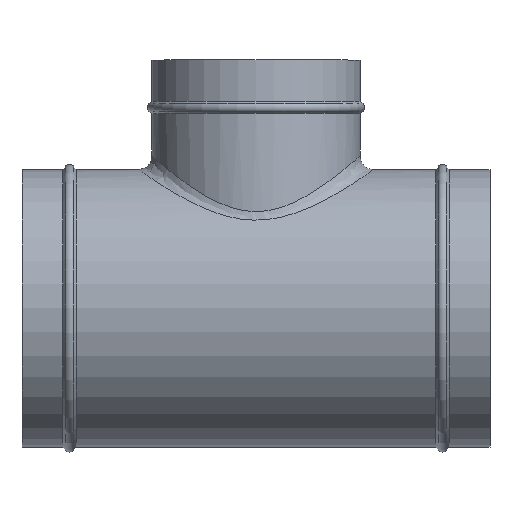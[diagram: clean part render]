
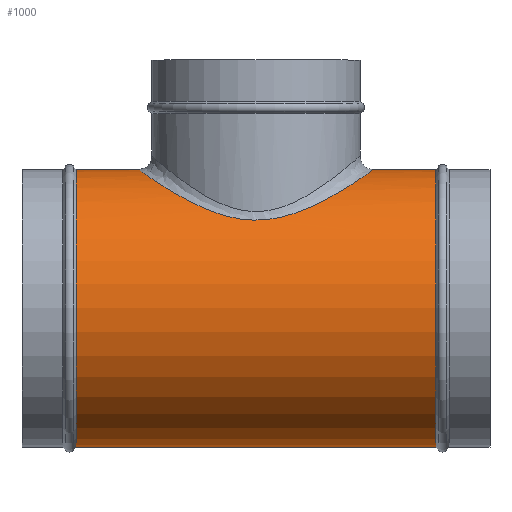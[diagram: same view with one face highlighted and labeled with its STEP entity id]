
A CAD part, top view. The second image highlights one B-rep face of the part: STEP entity #1000.
In plain terms, the highlighted cylindrical face has radius 102.25 mm (diameter 204.5 mm), a partial arc.
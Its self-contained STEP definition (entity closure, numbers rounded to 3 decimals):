
#226=CARTESIAN_POINT('',(-86.75,102.25,
0.));
#227=CARTESIAN_POINT('',(-86.75,102.25,3.342));
#228=CARTESIAN_POINT('',(-86.284,101.921,10.14));
#229=CARTESIAN_POINT('',(-84.048,100.355,20.549));
#230=CARTESIAN_POINT('',(-80.066,97.606,31.137));
#231=CARTESIAN_POINT('',(-74.086,93.588,41.711));
#232=CARTESIAN_POINT('',(-65.906,88.33,51.941));
#233=CARTESIAN_POINT('',(-55.218,81.954,61.473));
#234=CARTESIAN_POINT('',(-42.857,75.528,69.097));
#235=CARTESIAN_POINT('',(-31.163,70.612,74.023));
#236=CARTESIAN_POINT('',(-19.957,67.164,77.123));
#237=CARTESIAN_POINT('',(-9.628,65.275,78.707));
#238=CARTESIAN_POINT('',(0.05,64.694,79.181));
#239=CARTESIAN_POINT('',(9.73,65.287,78.697));
#240=CARTESIAN_POINT('',(20.07,67.192,77.1));
#241=CARTESIAN_POINT('',(31.296,70.66,73.977));
#242=CARTESIAN_POINT('',(43.002,75.596,69.025));
#243=CARTESIAN_POINT('',(55.386,82.048,61.349));
#244=CARTESIAN_POINT('',(66.036,88.411,51.802));
#245=CARTESIAN_POINT('',(74.179,93.649,41.573));
#246=CARTESIAN_POINT('',(80.133,97.652,30.993));
#247=CARTESIAN_POINT('',(84.091,100.385,20.401));
#248=CARTESIAN_POINT('',(86.298,101.931,10.02));
#249=CARTESIAN_POINT('',(86.75,102.25,3.294));
#250=CARTESIAN_POINT('',(86.75,102.25,0.));
#255=CARTESIAN_POINT('',(132.65,0.,0.));
#256=DIRECTION('',(1.,0.,0.));
#257=DIRECTION('',(0.,1.,0.));
#258=AXIS2_PLACEMENT_3D('',#255,#256,#257);
#263=CARTESIAN_POINT('',(-132.65,0.,0.));
#264=DIRECTION('',(1.,0.,0.));
#265=DIRECTION('',(0.,1.,0.));
#266=AXIS2_PLACEMENT_3D('',#263,#264,#265);
#337=CARTESIAN_POINT('',(86.75,102.25,0.));
#361=CARTESIAN_POINT('',(-86.75,102.25,
0.));
#366=DIRECTION('',(-1.,0.,0.));
#367=VECTOR('',#366,45.9);
#368=CARTESIAN_POINT('',(-86.75,102.25,
0.));
#369=LINE('',#368,#367);
#381=DIRECTION('',(-1.,0.,0.));
#382=VECTOR('',#381,265.3);
#383=CARTESIAN_POINT('',(132.65,-102.25,0.));
#384=LINE('',#383,#382);
#396=DIRECTION('',(-1.,0.,0.));
#397=VECTOR('',#396,45.9);
#398=CARTESIAN_POINT('',(132.65,102.25,0.));
#399=LINE('',#398,#397);
#833=CARTESIAN_POINT('',(132.65,102.25,0.));
#834=CARTESIAN_POINT('',(132.65,-102.25,0.));
#835=VERTEX_POINT('',#833);
#836=VERTEX_POINT('',#834);
#837=CARTESIAN_POINT('',(-132.65,102.25,0.));
#838=CARTESIAN_POINT('',(-132.65,-102.25,0.));
#839=VERTEX_POINT('',#837);
#840=VERTEX_POINT('',#838);
#873=VERTEX_POINT('',#337);
#874=VERTEX_POINT('',#361);
#981=CARTESIAN_POINT('',(-189.75,0.,0.));
#982=DIRECTION('',(1.,0.,0.));
#983=DIRECTION('',(0.,-1.,0.));
#984=AXIS2_PLACEMENT_3D('',#981,#982,#983);
#985=CYLINDRICAL_SURFACE('',#984,102.25);
#987=ORIENTED_EDGE('',*,*,#986,.T.);
#989=ORIENTED_EDGE('',*,*,#988,.F.);
#991=ORIENTED_EDGE('',*,*,#990,.T.);
#993=ORIENTED_EDGE('',*,*,#992,.T.);
#995=ORIENTED_EDGE('',*,*,#994,.F.);
#997=ORIENTED_EDGE('',*,*,#996,.F.);
#998=EDGE_LOOP('',(#987,#989,#991,#993,#995,#997));
#999=FACE_OUTER_BOUND('',#998,.F.);
#251=B_SPLINE_CURVE_WITH_KNOTS('',3,(#226,#227,#228,#229,#230,#231,#232,#233,
#234,#235,#236,#237,#238,#239,#240,#241,#242,#243,#244,#245,#246,#247,#248,#249,
#250),.UNSPECIFIED.,.F.,.F.,(4,1,1,1,1,1,1,1,1,1,1,1,1,1,1,1,1,1,1,1,1,1,4),(
0.,0.045,0.091,0.136,0.182,
0.227,0.273,0.318,0.364,
0.409,0.455,0.5,0.545,0.591,
0.636,0.682,0.727,0.773,
0.818,0.864,0.909,0.955,1.),
.UNSPECIFIED.);
#259=CIRCLE('',#258,102.25);
#267=CIRCLE('',#266,102.25);
#986=EDGE_CURVE('',#874,#873,#251,.T.);
#988=EDGE_CURVE('',#835,#873,#399,.T.);
#990=EDGE_CURVE('',#835,#836,#259,.T.);
#992=EDGE_CURVE('',#836,#840,#384,.T.);
#994=EDGE_CURVE('',#839,#840,#267,.T.);
#996=EDGE_CURVE('',#874,#839,#369,.T.);
#1000=ADVANCED_FACE('',(#999),#985,.T.);
